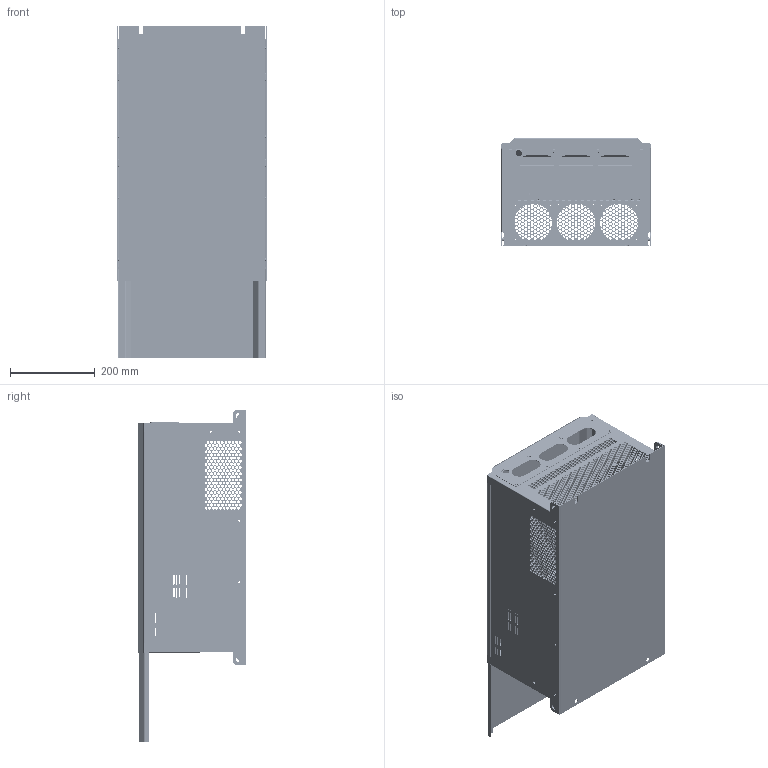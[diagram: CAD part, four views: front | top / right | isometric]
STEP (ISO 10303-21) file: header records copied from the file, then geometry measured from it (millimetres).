
FILE_DESCRIPTION((''),'2;1');
FILE_NAME('2999910069_ASM','2024-06-14T08:31:18',('dylvxj'),(''),'CREO PARAMETRIC BY PTC INC, 2020044','CREO PARAMETRIC BY PTC INC, 2020044','');
FILE_SCHEMA(('CONFIG_CONTROL_DESIGN','SHAPE_APPEARANCE_LAYERS_GROUPS'));
Products named in the file (42): 8ZTD_024_961; S-M5-2; 8ZTD_024_961_ASM; 8ZTD_062_300; S_M4_2; SOO-M3-15; 8ZTD_062_300_ASM; 8ZTD_043_732; 8ZTD_043_732_ASM; 8ZTD_043_733; 8ZTD_043_733_ASM; 8ZTD_043_734; 8ZTD_043_734_ASM; 5ZTD_022_465_ASM; 8ZTD_048_129; 8ZTD_048_129_ASM; 8ZTD_048_074; 8ZTD_048_074_ASM; 8ZTD_048_130; S00-M4-10; 8ZTD_048_130_ASM; 8ZTD_325_299; 8ZTD_325_299_ASM; 8ZTD_355_049; 8ZTD_355_049_ASM; 8ZTD_043_990; 8ZTD_043_990_ASM; QIPINGLUOMU6; 5ZTD_355_110_ASM; 5048V1623; SOO-M3-5; SOO-M3-13; 5048V1623_ASM; 8ZTD_315_1736; 8ZTD_130_083; QIPINGLUOMU5; 5ZTD_315_594_ASM; 8ZTD_312_084; 8ZTD_048_153; 5ZTD_312_014_ASM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
Assembly tree (135 placements, depth 4):
  2999910069_ASM
    5ZTD_022_465_ASM
      8ZTD_024_961_ASM
        8ZTD_024_961
        S-M5-2  x16
      8ZTD_062_300_ASM
        8ZTD_062_300
        S_M4_2  x2
        SOO-M3-15  x3
        S-M5-2  x4
      8ZTD_043_732_ASM  x2
        8ZTD_043_732
        S-M5-2
      8ZTD_043_733_ASM
        8ZTD_043_733
        S-M5-2  x2
      8ZTD_043_734_ASM
        8ZTD_043_734
        S-M5-2  x2
    8ZTD_048_129_ASM
      8ZTD_048_129
      S_M4_2  x18
    8ZTD_048_074_ASM
      8ZTD_048_074
      S-M5-2  x4
    8ZTD_048_130_ASM
      8ZTD_048_130
      S00-M4-10  x4
    8ZTD_325_299_ASM
      8ZTD_325_299
      S_M4_2  x12
    5ZTD_355_110_ASM
      8ZTD_355_049_ASM
        8ZTD_355_049
        S_M4_2  x14
      8ZTD_043_990_ASM  x4
        8ZTD_043_990
        S_M4_2
      QIPINGLUOMU6  x2
    5048V1623_ASM
      5048V1623
      SOO-M3-5  x4
      SOO-M3-13  x6
    5ZTD_315_594_ASM
      8ZTD_315_1736
      8ZTD_130_083
      QIPINGLUOMU5
    5ZTD_312_014_ASM
      8ZTD_312_084
      8ZTD_048_153
      QIPINGLUOMU5
    8ZTD_325_214
Bounding box: 352.04 x 255.06 x 784 mm (x, y, z)
Volume: 1846445.8 mm3; surface area: 4304242.1 mm2
Topology: 124 solids, 270 shells, 19360 faces, 72335 edges, 53959 vertices
Faces by surface type: plane 17762, cylinder 1594, bspline 4
Entity records: 515610 total; most frequent: CARTESIAN_POINT 79489, ORIENTED_EDGE 60957, DIRECTION 57746, EDGE_CURVE 39395, PRESENTATION_STYLE_ASSIGNMENT 38654, STYLED_ITEM 38467, CURVE_STYLE 38413, VECTOR 36724
